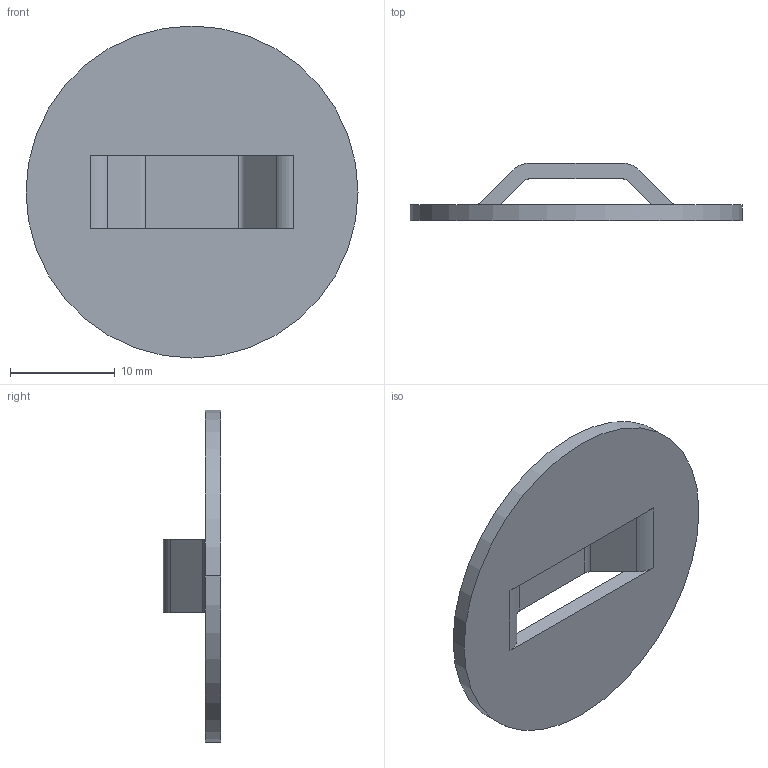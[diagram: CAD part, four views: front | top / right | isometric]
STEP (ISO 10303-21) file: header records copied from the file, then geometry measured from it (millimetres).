
FILE_DESCRIPTION (( 'STEP AP203' ), '1' );
FILE_NAME ('1116786 - 10 -BRIDGE LANCE SGL .737LONGX.276WIDEX.157 HIGH-.059THK.STEP', '2024-11-18T17:19:06', ( '' ), ( '' ), 'SwSTEP 2.0', 'SolidWorks 2024', '' );
FILE_SCHEMA (( 'CONFIG_CONTROL_DESIGN' ));
Length unit declared in the file: inch
Products named in the file (1): 1116786 - 10 -BRIDGE LANCE SGL .737LONGX.276WIDEX.157 HIGH-.059THK
Bounding box: 31.75 x 5.49 x 31.75 mm (x, y, z)
Volume: 1218.5 mm3; surface area: 1881.4 mm2
Topology: 1 solids, 1 shells, 22 faces, 62 edges, 40 vertices
Faces by surface type: plane 12, cylinder 10
Entity records: 801 total; most frequent: DIRECTION 128, CARTESIAN_POINT 125, ORIENTED_EDGE 124, EDGE_CURVE 62, AXIS2_PLACEMENT_3D 43, LINE 42, VECTOR 42, VERTEX_POINT 40
